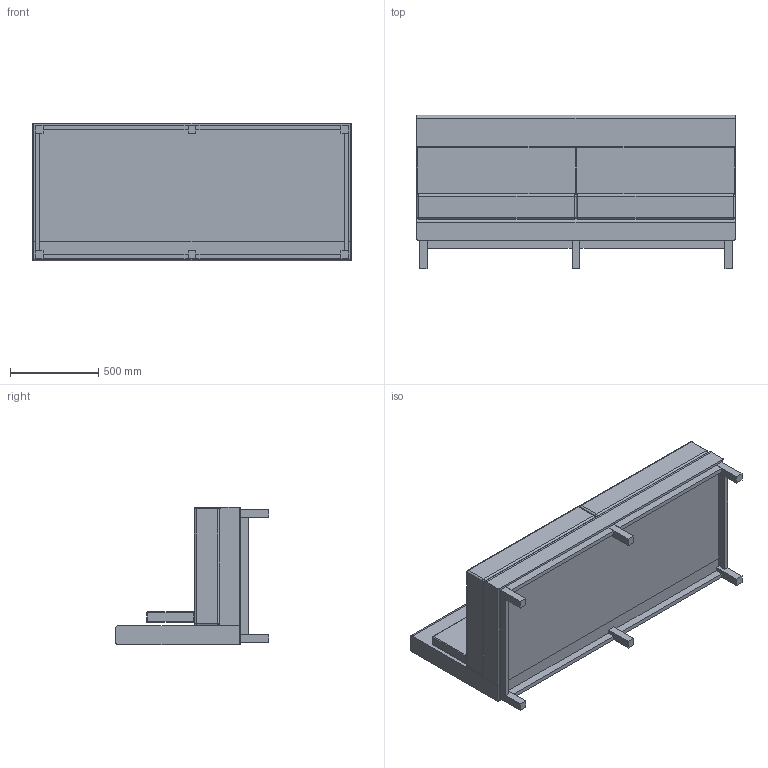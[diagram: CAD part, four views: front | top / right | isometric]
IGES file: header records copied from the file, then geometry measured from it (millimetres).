
Start section: SolidWorks IGES file using analytic representation for surfaces
Global section: file name: P:\3D CAD BLOCKS\ARTHUR CITYSCAPE\LB Plain Compact Armless\IGS\ART-LB-PLAIN-COMPACT-ART-CITY-ARMLESS.IGS; native system: SolidWorks 2012; preprocessor: SolidWorks 2012; author: tom; date: 160523.093402; units: millimetre
Bounding box: 1800 x 868 x 780 mm (x, y, z)
Surface area: 11359354.6 mm2 (no closed solid volume)
Topology: 0 solids, 0 shells, 196 faces, 904 edges, 892 vertices
Faces by surface type: bspline 108, revolution 88
